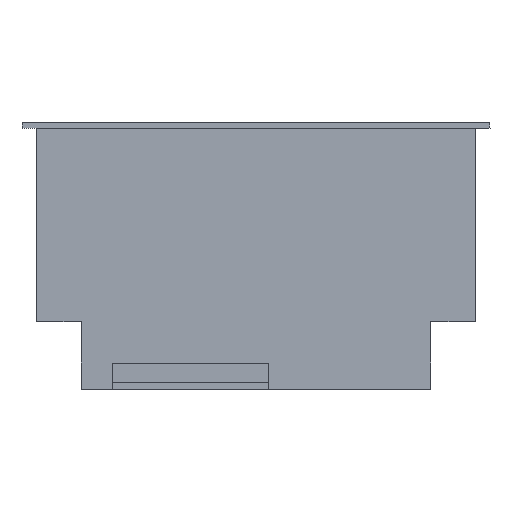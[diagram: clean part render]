
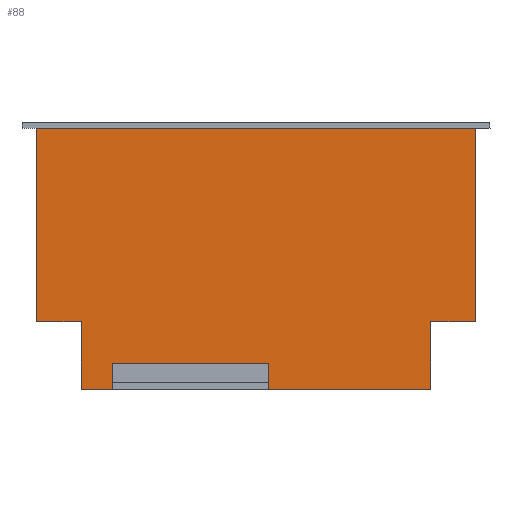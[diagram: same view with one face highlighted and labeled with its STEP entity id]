
A CAD part, front view. The second image highlights one B-rep face of the part: STEP entity #88.
In plain terms, the highlighted planar face has unit normal (0, -1, 0).
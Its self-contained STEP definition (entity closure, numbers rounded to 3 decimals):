
#4 = EDGE_CURVE ( 'NONE', #1874, #1206, #652, .T. ) ;
#13 = CARTESIAN_POINT ( 'NONE',  ( -97., -11., -145. ) ) ;
#51 = CARTESIAN_POINT ( 'NONE',  ( 122., -11., -107.5 ) ) ;
#69 = DIRECTION ( 'NONE',  ( 0., 0., -1. ) ) ;
#72 = ORIENTED_EDGE ( 'NONE', *, *, #780, .F. ) ;
#79 = VERTEX_POINT ( 'NONE', #1400 ) ;
#88 = ADVANCED_FACE ( 'NONE', ( #1745 ), #334, .F. ) ;
#123 = CARTESIAN_POINT ( 'NONE',  ( -97., -11., -107.5 ) ) ;
#170 = VECTOR ( 'NONE', #949, 1000. ) ;
#171 = DIRECTION ( 'NONE',  ( -1., 0., 0. ) ) ;
#213 = EDGE_CURVE ( 'NONE', #1994, #893, #497, .T. ) ;
#244 = ORIENTED_EDGE ( 'NONE', *, *, #1045, .F. ) ;
#247 = ORIENTED_EDGE ( 'NONE', *, *, #1374, .F. ) ;
#248 = CARTESIAN_POINT ( 'NONE',  ( 0., -11., 0. ) ) ;
#252 = ORIENTED_EDGE ( 'NONE', *, *, #1515, .F. ) ;
#286 = VECTOR ( 'NONE', #1233, 1000. ) ;
#334 = PLANE ( 'NONE',  #1799 ) ;
#408 = CARTESIAN_POINT ( 'NONE',  ( 97., -11., -145. ) ) ;
#412 = CARTESIAN_POINT ( 'NONE',  ( -80., -11., -145. ) ) ;
#497 = LINE ( 'NONE', #1763, #1707 ) ;
#529 = LINE ( 'NONE', #680, #1425 ) ;
#532 = CARTESIAN_POINT ( 'NONE',  ( 7., -11., -131. ) ) ;
#546 = DIRECTION ( 'NONE',  ( 1., 0., 0. ) ) ;
#583 = CARTESIAN_POINT ( 'NONE',  ( -97., -11., -145. ) ) ;
#639 = VERTEX_POINT ( 'NONE', #1832 ) ;
#641 = DIRECTION ( 'NONE',  ( 0., 0., -1. ) ) ;
#649 = VECTOR ( 'NONE', #1562, 1000. ) ;
#652 = LINE ( 'NONE', #1909, #909 ) ;
#657 = VECTOR ( 'NONE', #641, 1000. ) ;
#664 = EDGE_CURVE ( 'NONE', #1277, #1660, #1517, .T. ) ;
#680 = CARTESIAN_POINT ( 'NONE',  ( -122., -11., -107.5 ) ) ;
#762 = CARTESIAN_POINT ( 'NONE',  ( 122., -11., 0. ) ) ;
#780 = EDGE_CURVE ( 'NONE', #79, #1905, #1236, .T. ) ;
#830 = VERTEX_POINT ( 'NONE', #1886 ) ;
#885 = ORIENTED_EDGE ( 'NONE', *, *, #1168, .F. ) ;
#893 = VERTEX_POINT ( 'NONE', #13 ) ;
#909 = VECTOR ( 'NONE', #171, 1000. ) ;
#924 = DIRECTION ( 'NONE',  ( -1., 0., 0. ) ) ;
#949 = DIRECTION ( 'NONE',  ( 0., 0., 1. ) ) ;
#956 = CARTESIAN_POINT ( 'NONE',  ( -80., -11., 0. ) ) ;
#957 = CARTESIAN_POINT ( 'NONE',  ( 0., -11., 0. ) ) ;
#970 = ORIENTED_EDGE ( 'NONE', *, *, #213, .F. ) ;
#980 = VERTEX_POINT ( 'NONE', #532 ) ;
#984 = CARTESIAN_POINT ( 'NONE',  ( -122., -11., -107.5 ) ) ;
#1045 = EDGE_CURVE ( 'NONE', #1206, #639, #1481, .T. ) ;
#1050 = ORIENTED_EDGE ( 'NONE', *, *, #1701, .T. ) ;
#1084 = DIRECTION ( 'NONE',  ( -1., 0., 0. ) ) ;
#1105 = VECTOR ( 'NONE', #1084, 1000. ) ;
#1110 = CARTESIAN_POINT ( 'NONE',  ( 0., -11., -131. ) ) ;
#1122 = LINE ( 'NONE', #1110, #1550 ) ;
#1168 = EDGE_CURVE ( 'NONE', #893, #79, #1688, .T. ) ;
#1170 = VECTOR ( 'NONE', #69, 1000. ) ;
#1192 = ORIENTED_EDGE ( 'NONE', *, *, #4, .F. ) ;
#1206 = VERTEX_POINT ( 'NONE', #2013 ) ;
#1227 = CARTESIAN_POINT ( 'NONE',  ( -122., -11., 0. ) ) ;
#1233 = DIRECTION ( 'NONE',  ( 0., 0., 1. ) ) ;
#1236 = LINE ( 'NONE', #123, #1276 ) ;
#1264 = CARTESIAN_POINT ( 'NONE',  ( 122., -11., -107.5 ) ) ;
#1267 = ORIENTED_EDGE ( 'NONE', *, *, #1718, .T. ) ;
#1276 = VECTOR ( 'NONE', #924, 1000. ) ;
#1277 = VERTEX_POINT ( 'NONE', #1227 ) ;
#1294 = LINE ( 'NONE', #1883, #649 ) ;
#1374 = EDGE_CURVE ( 'NONE', #639, #1553, #1450, .T. ) ;
#1380 = EDGE_CURVE ( 'NONE', #980, #1553, #1294, .T. ) ;
#1400 = CARTESIAN_POINT ( 'NONE',  ( -97., -11., -107.5 ) ) ;
#1412 = CARTESIAN_POINT ( 'NONE',  ( 0., -11., -145. ) ) ;
#1420 = DIRECTION ( 'NONE',  ( 1., 0., 0. ) ) ;
#1425 = VECTOR ( 'NONE', #1938, 1000. ) ;
#1450 = LINE ( 'NONE', #1412, #1105 ) ;
#1481 = LINE ( 'NONE', #408, #1170 ) ;
#1515 = EDGE_CURVE ( 'NONE', #1905, #1277, #529, .T. ) ;
#1517 = LINE ( 'NONE', #248, #1769 ) ;
#1550 = VECTOR ( 'NONE', #1420, 1000. ) ;
#1553 = VERTEX_POINT ( 'NONE', #1989 ) ;
#1560 = DIRECTION ( 'NONE',  ( 0., 1., 0. ) ) ;
#1562 = DIRECTION ( 'NONE',  ( 0., 0., -1. ) ) ;
#1581 = LINE ( 'NONE', #956, #170 ) ;
#1629 = DIRECTION ( 'NONE',  ( -1., 0., 0. ) ) ;
#1634 = ORIENTED_EDGE ( 'NONE', *, *, #664, .F. ) ;
#1660 = VERTEX_POINT ( 'NONE', #762 ) ;
#1677 = ORIENTED_EDGE ( 'NONE', *, *, #1380, .T. ) ;
#1681 = EDGE_CURVE ( 'NONE', #1660, #1874, #1898, .T. ) ;
#1688 = LINE ( 'NONE', #583, #286 ) ;
#1701 = EDGE_CURVE ( 'NONE', #1994, #830, #1581, .T. ) ;
#1707 = VECTOR ( 'NONE', #1629, 1000. ) ;
#1717 = DIRECTION ( 'NONE',  ( 0., 0., 1. ) ) ;
#1718 = EDGE_CURVE ( 'NONE', #830, #980, #1122, .T. ) ;
#1745 = FACE_OUTER_BOUND ( 'NONE', #1804, .T. ) ;
#1763 = CARTESIAN_POINT ( 'NONE',  ( 0., -11., -145. ) ) ;
#1769 = VECTOR ( 'NONE', #546, 1000. ) ;
#1799 = AXIS2_PLACEMENT_3D ( 'NONE', #957, #1560, #1717 ) ;
#1804 = EDGE_LOOP ( 'NONE', ( #1677, #247, #244, #1192, #1988, #1634, #252, #72, #885, #970, #1050, #1267 ) ) ;
#1832 = CARTESIAN_POINT ( 'NONE',  ( 97., -11., -145. ) ) ;
#1874 = VERTEX_POINT ( 'NONE', #51 ) ;
#1883 = CARTESIAN_POINT ( 'NONE',  ( 7., -11., 0. ) ) ;
#1886 = CARTESIAN_POINT ( 'NONE',  ( -80., -11., -131. ) ) ;
#1898 = LINE ( 'NONE', #1264, #657 ) ;
#1905 = VERTEX_POINT ( 'NONE', #984 ) ;
#1909 = CARTESIAN_POINT ( 'NONE',  ( 97., -11., -107.5 ) ) ;
#1938 = DIRECTION ( 'NONE',  ( 0., 0., 1. ) ) ;
#1988 = ORIENTED_EDGE ( 'NONE', *, *, #1681, .F. ) ;
#1989 = CARTESIAN_POINT ( 'NONE',  ( 7., -11., -145. ) ) ;
#1994 = VERTEX_POINT ( 'NONE', #412 ) ;
#2013 = CARTESIAN_POINT ( 'NONE',  ( 97., -11., -107.5 ) ) ;
